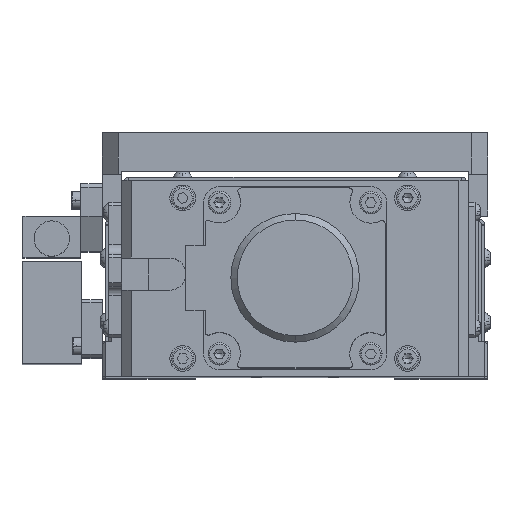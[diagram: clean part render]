
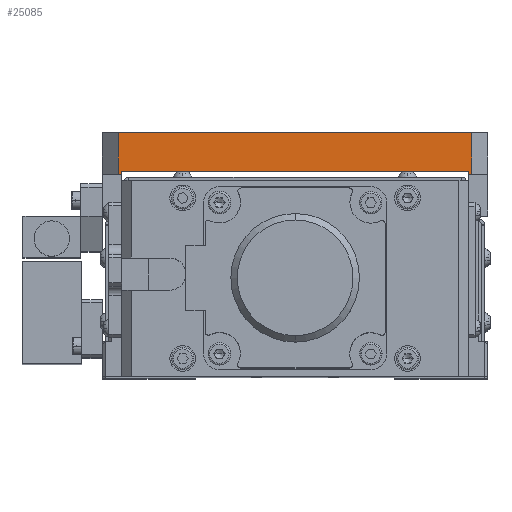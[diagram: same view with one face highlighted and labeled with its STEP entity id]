
A CAD part, top view. The second image highlights one B-rep face of the part: STEP entity #25085.
In plain terms, the highlighted planar face has unit normal (0, 0, 1).
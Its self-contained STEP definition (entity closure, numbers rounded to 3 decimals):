
#689 = EDGE_CURVE ( 'NONE', #20325, #8135, #3614, .T. ) ;
#1868 = VERTEX_POINT ( 'NONE', #2083 ) ;
#2083 = CARTESIAN_POINT ( 'NONE',  ( -54., 64.5, 80.2 ) ) ;
#2112 = VERTEX_POINT ( 'NONE', #9489 ) ;
#2217 = CARTESIAN_POINT ( 'NONE',  ( 60., 63.5, 80.2 ) ) ;
#2600 = FACE_OUTER_BOUND ( 'NONE', #8351, .T. ) ;
#3155 = CARTESIAN_POINT ( 'NONE',  ( -54., 64.5, 80.2 ) ) ;
#3614 = LINE ( 'NONE', #29293, #16634 ) ;
#3907 = AXIS2_PLACEMENT_3D ( 'NONE', #36614, #36763, #11244 ) ;
#4368 = VERTEX_POINT ( 'NONE', #20419 ) ;
#4734 = LINE ( 'NONE', #41217, #9239 ) ;
#4854 = VECTOR ( 'NONE', #24065, 1000. ) ;
#7738 = ORIENTED_EDGE ( 'NONE', *, *, #30116, .T. ) ;
#8135 = VERTEX_POINT ( 'NONE', #20047 ) ;
#8351 = EDGE_LOOP ( 'NONE', ( #31173, #26931, #7738, #14486, #32394, #32301, #22043, #25145 ) ) ;
#9000 = EDGE_CURVE ( 'NONE', #1868, #2112, #32749, .T. ) ;
#9121 = LINE ( 'NONE', #28946, #38764 ) ;
#9239 = VECTOR ( 'NONE', #34871, 1000. ) ;
#9489 = CARTESIAN_POINT ( 'NONE',  ( -54., 63.5, 80.2 ) ) ;
#9608 = DIRECTION ( 'NONE',  ( 0., -1., 0. ) ) ;
#10964 = PLANE ( 'NONE',  #3907 ) ;
#11244 = DIRECTION ( 'NONE',  ( -1., 0., 0. ) ) ;
#12433 = LINE ( 'NONE', #38404, #26017 ) ;
#12503 = DIRECTION ( 'NONE',  ( 0., 1., 0. ) ) ;
#12577 = VERTEX_POINT ( 'NONE', #26946 ) ;
#14486 = ORIENTED_EDGE ( 'NONE', *, *, #9000, .F. ) ;
#16634 = VECTOR ( 'NONE', #32512, 1000. ) ;
#16694 = EDGE_CURVE ( 'NONE', #32844, #1868, #4734, .T. ) ;
#16770 = VERTEX_POINT ( 'NONE', #37943 ) ;
#17559 = VECTOR ( 'NONE', #23492, 1000. ) ;
#20047 = CARTESIAN_POINT ( 'NONE',  ( 55., 76.5, 80.2 ) ) ;
#20325 = VERTEX_POINT ( 'NONE', #30184 ) ;
#20419 = CARTESIAN_POINT ( 'NONE',  ( 54., 63.5, 80.2 ) ) ;
#20447 = EDGE_CURVE ( 'NONE', #20325, #16770, #12433, .T. ) ;
#20909 = LINE ( 'NONE', #27741, #4854 ) ;
#21888 = EDGE_CURVE ( 'NONE', #32844, #4368, #20909, .T. ) ;
#22043 = ORIENTED_EDGE ( 'NONE', *, *, #32646, .T. ) ;
#23492 = DIRECTION ( 'NONE',  ( 1., 0., 0. ) ) ;
#23596 = LINE ( 'NONE', #39501, #17559 ) ;
#24065 = DIRECTION ( 'NONE',  ( 0., -1., 0. ) ) ;
#24986 = LINE ( 'NONE', #2217, #25958 ) ;
#25085 = ADVANCED_FACE ( 'NONE', ( #2600 ), #10964, .F. ) ;
#25145 = ORIENTED_EDGE ( 'NONE', *, *, #35222, .T. ) ;
#25958 = VECTOR ( 'NONE', #34728, 1000. ) ;
#26017 = VECTOR ( 'NONE', #41654, 1000. ) ;
#26931 = ORIENTED_EDGE ( 'NONE', *, *, #20447, .T. ) ;
#26946 = CARTESIAN_POINT ( 'NONE',  ( 55., 63.5, 80.2 ) ) ;
#27741 = CARTESIAN_POINT ( 'NONE',  ( 54., 64.5, 80.2 ) ) ;
#28946 = CARTESIAN_POINT ( 'NONE',  ( 55., 76.5, 80.2 ) ) ;
#29293 = CARTESIAN_POINT ( 'NONE',  ( 60., 76.5, 80.2 ) ) ;
#30116 = EDGE_CURVE ( 'NONE', #16770, #2112, #23596, .T. ) ;
#30184 = CARTESIAN_POINT ( 'NONE',  ( -55., 76.5, 80.2 ) ) ;
#31173 = ORIENTED_EDGE ( 'NONE', *, *, #689, .F. ) ;
#32228 = CARTESIAN_POINT ( 'NONE',  ( 54., 64.5, 80.2 ) ) ;
#32301 = ORIENTED_EDGE ( 'NONE', *, *, #21888, .T. ) ;
#32394 = ORIENTED_EDGE ( 'NONE', *, *, #16694, .F. ) ;
#32512 = DIRECTION ( 'NONE',  ( 1., 0., 0. ) ) ;
#32646 = EDGE_CURVE ( 'NONE', #4368, #12577, #24986, .T. ) ;
#32749 = LINE ( 'NONE', #3155, #39259 ) ;
#32844 = VERTEX_POINT ( 'NONE', #32228 ) ;
#34728 = DIRECTION ( 'NONE',  ( 1., 0., 0. ) ) ;
#34871 = DIRECTION ( 'NONE',  ( -1., 0., 0. ) ) ;
#35222 = EDGE_CURVE ( 'NONE', #12577, #8135, #9121, .T. ) ;
#36614 = CARTESIAN_POINT ( 'NONE',  ( 60., 76.5, 80.2 ) ) ;
#36763 = DIRECTION ( 'NONE',  ( 0., 0., -1. ) ) ;
#37943 = CARTESIAN_POINT ( 'NONE',  ( -55., 63.5, 80.2 ) ) ;
#38404 = CARTESIAN_POINT ( 'NONE',  ( -55., 76.5, 80.2 ) ) ;
#38764 = VECTOR ( 'NONE', #12503, 1000. ) ;
#39259 = VECTOR ( 'NONE', #9608, 1000. ) ;
#39501 = CARTESIAN_POINT ( 'NONE',  ( 60., 63.5, 80.2 ) ) ;
#41217 = CARTESIAN_POINT ( 'NONE',  ( 54., 64.5, 80.2 ) ) ;
#41654 = DIRECTION ( 'NONE',  ( 0., -1., 0. ) ) ;
